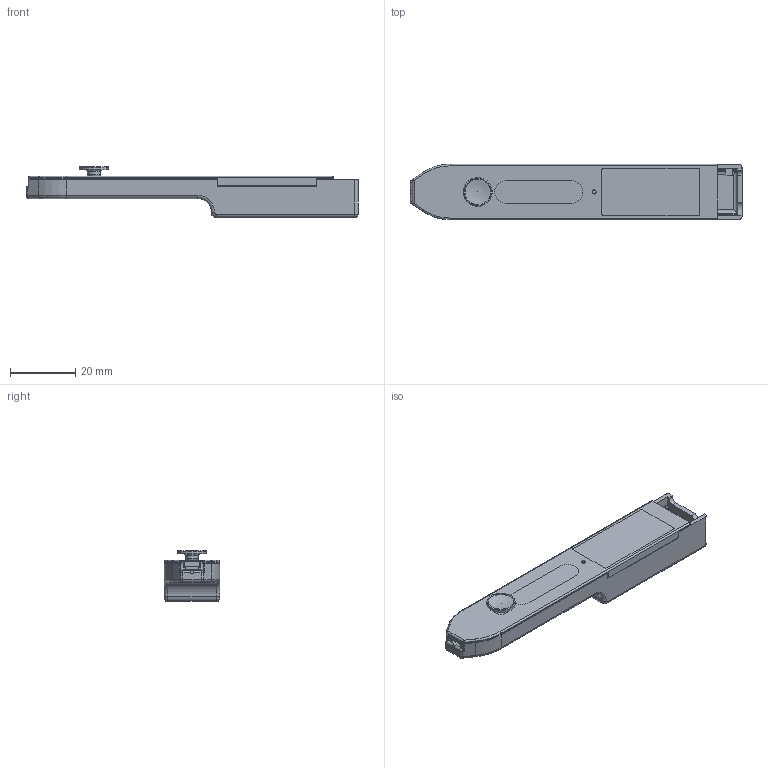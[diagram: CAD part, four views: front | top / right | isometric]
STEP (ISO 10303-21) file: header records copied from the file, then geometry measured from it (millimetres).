
FILE_DESCRIPTION(/* description */ (''),/* implementation_level */ '2;1');
FILE_NAME(/* name */ '',/* time_stamp */ '2023-09-20T22:59:08+08:00',/* author */ (''),/* organization */ (''),/* preprocessor_version */ 'ST-DEVELOPER v20',/* originating_system */ 'Autodesk Translation Framework v12.14.0.127',/* authorisation */ '');
FILE_SCHEMA (('AUTOMOTIVE_DESIGN { 1 0 10303 214 3 1 1 }'));
Length unit declared in the file: millimetre
Products named in the file (1): 测试笔外壳2
Bounding box: 101.66 x 17 x 15.6 mm (x, y, z)
Volume: 6374.2 mm3; surface area: 11424.3 mm2
Topology: 5 solids, 5 shells, 303 faces, 806 edges, 511 vertices
Faces by surface type: plane 186, cylinder 89, bspline 11, torus 10, sphere 7
Full cylindrical faces by diameter (mm): 1.25 x1, 4 x1, 5 x1, 8.8 x1, 12.5 x1
Entity records: 9543 total; most frequent: CARTESIAN_POINT 1861, ORIENTED_EDGE 1598, DIRECTION 1570, EDGE_CURVE 799, LINE 598, VECTOR 598, VERTEX_POINT 511, AXIS2_PLACEMENT_3D 486
